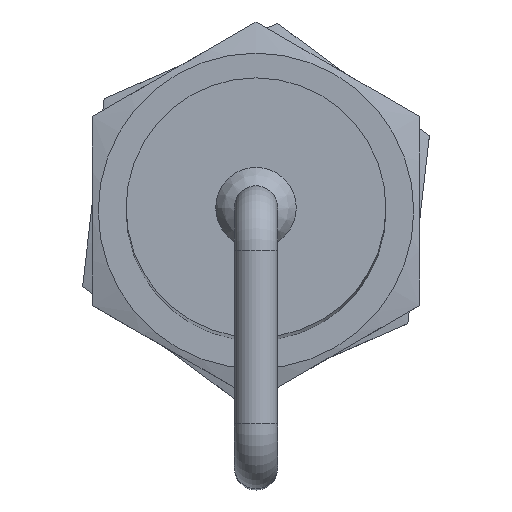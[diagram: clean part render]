
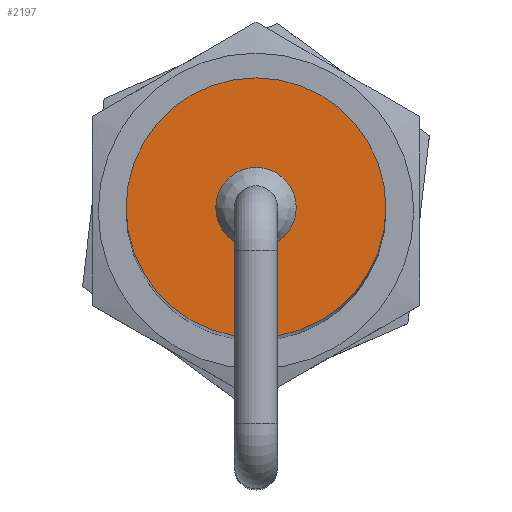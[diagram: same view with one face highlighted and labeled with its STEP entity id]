
A CAD part, top view. The second image highlights one B-rep face of the part: STEP entity #2197.
In plain terms, the highlighted planar face has unit normal (0, 0, 1).
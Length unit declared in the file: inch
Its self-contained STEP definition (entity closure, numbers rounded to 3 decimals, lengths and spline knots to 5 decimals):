
#220=FACE_BOUND('',#508,.T.);
#256=PLANE('',#2537);
#371=FACE_OUTER_BOUND('',#507,.T.);
#507=EDGE_LOOP('',(#1821));
#508=EDGE_LOOP('',(#1822));
#774=CIRCLE('',#2523,0.11628);
#779=CIRCLE('',#2536,0.375);
#955=VERTEX_POINT('',#5696);
#979=VERTEX_POINT('',#12222);
#1222=EDGE_CURVE('',#955,#955,#774,.T.);
#1265=EDGE_CURVE('',#979,#979,#779,.T.);
#1821=ORIENTED_EDGE('',*,*,#1265,.T.);
#1822=ORIENTED_EDGE('',*,*,#1222,.T.);
#2197=ADVANCED_FACE('',(#371,#220),#256,.T.);
#2523=AXIS2_PLACEMENT_3D('',#5698,#2903,#2904);
#2536=AXIS2_PLACEMENT_3D('',#12223,#2938,#2939);
#2537=AXIS2_PLACEMENT_3D('',#12225,#2941,#2942);
#2903=DIRECTION('center_axis',(0.,0.,
-1.));
#2904=DIRECTION('ref_axis',(1.,0.,0.));
#2938=DIRECTION('center_axis',(0.,0.,1.));
#2939=DIRECTION('ref_axis',(1.,0.,0.));
#2941=DIRECTION('center_axis',(0.,0.,1.));
#2942=DIRECTION('ref_axis',(1.,0.,0.));
#5696=CARTESIAN_POINT('',(-0.11628,0.,6.16));
#5698=CARTESIAN_POINT('Origin',(0.,0.,
6.16));
#12222=CARTESIAN_POINT('',(-0.375,0.,6.16));
#12223=CARTESIAN_POINT('Origin',(0.,0.,6.16));
#12225=CARTESIAN_POINT('Origin',(0.,0.,6.16));
